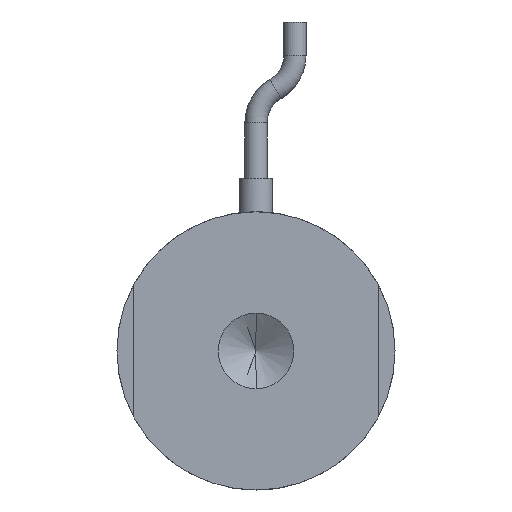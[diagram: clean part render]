
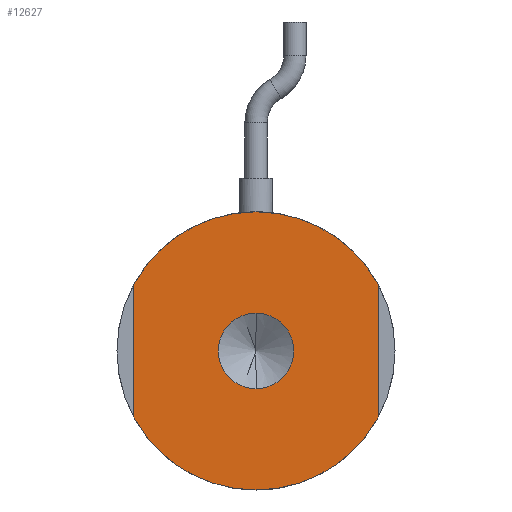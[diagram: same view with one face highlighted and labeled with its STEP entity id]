
A CAD part, front view. The second image highlights one B-rep face of the part: STEP entity #12627.
In plain terms, the highlighted planar face has unit normal (0, -1, 0).
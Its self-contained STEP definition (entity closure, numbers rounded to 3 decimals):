
#929 = DIRECTION ( 'NONE',  ( 0., -1., 0. ) ) ;
#1429 = CARTESIAN_POINT ( 'NONE',  ( 0., 0., 0. ) ) ;
#1634 = ORIENTED_EDGE ( 'NONE', *, *, #41753, .F. ) ;
#2081 = CARTESIAN_POINT ( 'NONE',  ( 0., 0., 3.4 ) ) ;
#2210 = CARTESIAN_POINT ( 'NONE',  ( 0., 0., 12.5 ) ) ;
#2853 = VERTEX_POINT ( 'NONE', #21650 ) ;
#3276 = VERTEX_POINT ( 'NONE', #6244 ) ;
#3829 = EDGE_LOOP ( 'NONE', ( #18673, #24473 ) ) ;
#4279 = CARTESIAN_POINT ( 'NONE',  ( 0., 0., 0. ) ) ;
#4546 = DIRECTION ( 'NONE',  ( 0., 0., 1. ) ) ;
#4798 = DIRECTION ( 'NONE',  ( 0., 0., 1. ) ) ;
#6244 = CARTESIAN_POINT ( 'NONE',  ( 0., 0., -12.5 ) ) ;
#6868 = ORIENTED_EDGE ( 'NONE', *, *, #38610, .F. ) ;
#7661 = PLANE ( 'NONE',  #17513 ) ;
#8645 = LINE ( 'NONE', #38829, #41793 ) ;
#9291 = FACE_BOUND ( 'NONE', #3829, .T. ) ;
#9527 = DIRECTION ( 'NONE',  ( 0., 1., 0. ) ) ;
#10492 = EDGE_CURVE ( 'NONE', #33567, #24572, #44054, .T. ) ;
#11103 = DIRECTION ( 'NONE',  ( 0., 0., 1. ) ) ;
#11503 = DIRECTION ( 'NONE',  ( 0., 1., 0. ) ) ;
#11630 = DIRECTION ( 'NONE',  ( 0., 1., 0. ) ) ;
#12128 = EDGE_CURVE ( 'NONE', #19874, #33567, #25797, .T. ) ;
#12627 = ADVANCED_FACE ( 'NONE', ( #9291, #37604 ), #7661, .F. ) ;
#13906 = EDGE_CURVE ( 'NONE', #18431, #18328, #30060, .T. ) ;
#14249 = VERTEX_POINT ( 'NONE', #40834 ) ;
#14829 = CARTESIAN_POINT ( 'NONE',  ( 0., 0., 0. ) ) ;
#14956 = CIRCLE ( 'NONE', #17558, 12.5 ) ;
#15329 = ORIENTED_EDGE ( 'NONE', *, *, #10492, .F. ) ;
#17445 = EDGE_LOOP ( 'NONE', ( #6868, #30834, #1634, #32452, #15329, #32877 ) ) ;
#17513 = AXIS2_PLACEMENT_3D ( 'NONE', #4279, #27867, #11103 ) ;
#17558 = AXIS2_PLACEMENT_3D ( 'NONE', #1429, #25148, #4798 ) ;
#18277 = DIRECTION ( 'NONE',  ( 0., 0., -1. ) ) ;
#18328 = VERTEX_POINT ( 'NONE', #2081 ) ;
#18431 = VERTEX_POINT ( 'NONE', #30095 ) ;
#18442 = AXIS2_PLACEMENT_3D ( 'NONE', #14829, #38751, #18277 ) ;
#18651 = AXIS2_PLACEMENT_3D ( 'NONE', #31902, #11503, #35360 ) ;
#18673 = ORIENTED_EDGE ( 'NONE', *, *, #13906, .F. ) ;
#19677 = CIRCLE ( 'NONE', #18442, 3.4 ) ;
#19874 = VERTEX_POINT ( 'NONE', #37602 ) ;
#20300 = CIRCLE ( 'NONE', #31170, 12.5 ) ;
#20632 = AXIS2_PLACEMENT_3D ( 'NONE', #29878, #9527, #33366 ) ;
#21271 = CARTESIAN_POINT ( 'NONE',  ( 0., 0., 0. ) ) ;
#21650 = CARTESIAN_POINT ( 'NONE',  ( 11., 0., -5.937 ) ) ;
#22416 = CARTESIAN_POINT ( 'NONE',  ( 11., 0., 5.937 ) ) ;
#23439 = LINE ( 'NONE', #24890, #41718 ) ;
#24473 = ORIENTED_EDGE ( 'NONE', *, *, #41278, .F. ) ;
#24572 = VERTEX_POINT ( 'NONE', #22416 ) ;
#24648 = DIRECTION ( 'NONE',  ( 0., 0., -1. ) ) ;
#24890 = CARTESIAN_POINT ( 'NONE',  ( -11., 0., 0. ) ) ;
#24921 = AXIS2_PLACEMENT_3D ( 'NONE', #21271, #929, #24648 ) ;
#25148 = DIRECTION ( 'NONE',  ( 0., 1., 0. ) ) ;
#25797 = CIRCLE ( 'NONE', #20632, 12.5 ) ;
#27867 = DIRECTION ( 'NONE',  ( 0., 1., 0. ) ) ;
#28381 = DIRECTION ( 'NONE',  ( 0., 0., -1. ) ) ;
#29878 = CARTESIAN_POINT ( 'NONE',  ( 0., 0., 0. ) ) ;
#30060 = CIRCLE ( 'NONE', #24921, 3.4 ) ;
#30095 = CARTESIAN_POINT ( 'NONE',  ( 0., 0., -3.4 ) ) ;
#30834 = ORIENTED_EDGE ( 'NONE', *, *, #37453, .F. ) ;
#31170 = AXIS2_PLACEMENT_3D ( 'NONE', #32029, #11630, #35484 ) ;
#31902 = CARTESIAN_POINT ( 'NONE',  ( 0., 0., 0. ) ) ;
#32029 = CARTESIAN_POINT ( 'NONE',  ( 0., 0., 0. ) ) ;
#32452 = ORIENTED_EDGE ( 'NONE', *, *, #35582, .F. ) ;
#32877 = ORIENTED_EDGE ( 'NONE', *, *, #12128, .F. ) ;
#33366 = DIRECTION ( 'NONE',  ( 0., 0., 1. ) ) ;
#33567 = VERTEX_POINT ( 'NONE', #2210 ) ;
#35360 = DIRECTION ( 'NONE',  ( 0., 0., 1. ) ) ;
#35484 = DIRECTION ( 'NONE',  ( 0., 0., 1. ) ) ;
#35582 = EDGE_CURVE ( 'NONE', #24572, #2853, #8645, .T. ) ;
#37453 = EDGE_CURVE ( 'NONE', #3276, #14249, #20300, .T. ) ;
#37602 = CARTESIAN_POINT ( 'NONE',  ( -11., 0., 5.937 ) ) ;
#37604 = FACE_OUTER_BOUND ( 'NONE', #17445, .T. ) ;
#38610 = EDGE_CURVE ( 'NONE', #14249, #19874, #23439, .T. ) ;
#38751 = DIRECTION ( 'NONE',  ( 0., -1., 0. ) ) ;
#38829 = CARTESIAN_POINT ( 'NONE',  ( 11., 0., 0. ) ) ;
#40834 = CARTESIAN_POINT ( 'NONE',  ( -11., 0., -5.937 ) ) ;
#41278 = EDGE_CURVE ( 'NONE', #18328, #18431, #19677, .T. ) ;
#41718 = VECTOR ( 'NONE', #4546, 1000. ) ;
#41753 = EDGE_CURVE ( 'NONE', #2853, #3276, #14956, .T. ) ;
#41793 = VECTOR ( 'NONE', #28381, 1000. ) ;
#44054 = CIRCLE ( 'NONE', #18651, 12.5 ) ;
